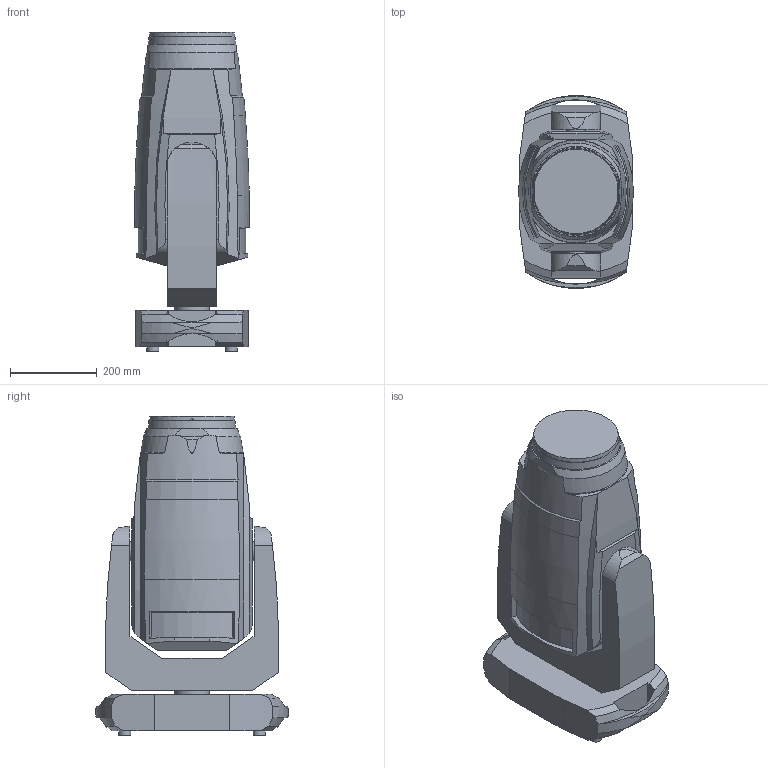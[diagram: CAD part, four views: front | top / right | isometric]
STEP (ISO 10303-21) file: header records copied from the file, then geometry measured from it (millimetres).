
FILE_DESCRIPTION(/* description */ ('Unknown'),/* implementation_level */ '2;1');
FILE_NAME(/* name */ '3D_Robin_Esprite_simplified',/* time_stamp */ '2019-08-13T14:40:01+02:00',/* author */ ('Ing.Rostislav HĂˇba'),/* organization */ ('ROBE lighting'),/* preprocessor_version */ 'ST-DEVELOPER v16.7',/* originating_system */ 'DEX',/* authorisation */ $);
FILE_SCHEMA (('CONFIG_CONTROL_DESIGN'));
Length unit declared in the file: millimetre
Products named in the file (4): 3D_Esprite; Tarrantula_Base; 3D_Head Esprite; 3D_Arm Esprite
Assembly tree (3 placements, depth 2):
  3D_Esprite
    Tarrantula_Base
    3D_Head Esprite
    3D_Arm Esprite
Bounding box: 264.28 x 444.41 x 736 mm (x, y, z)
Volume: 44745311.6 mm3; surface area: 1254882.4 mm2
Topology: 3 solids, 3 shells, 166 faces, 461 edges, 309 vertices
Faces by surface type: plane 82, cylinder 31, cone 31, bspline 12, torus 10
Full cylindrical faces by diameter (mm): 9.354 x4, 22 x2, 27.957 x4, 44 x1, 60 x1, 80.323 x1
Entity records: 5731 total; most frequent: CARTESIAN_POINT 1692, ORIENTED_EDGE 870, DIRECTION 744, EDGE_CURVE 435, AXIS2_PLACEMENT_3D 307, VERTEX_POINT 301, FACE_BOUND 198, EDGE_LOOP 196
